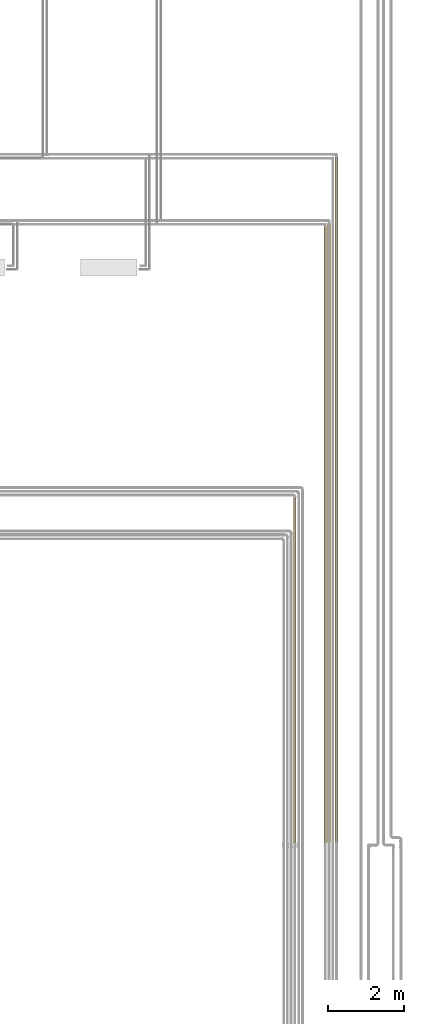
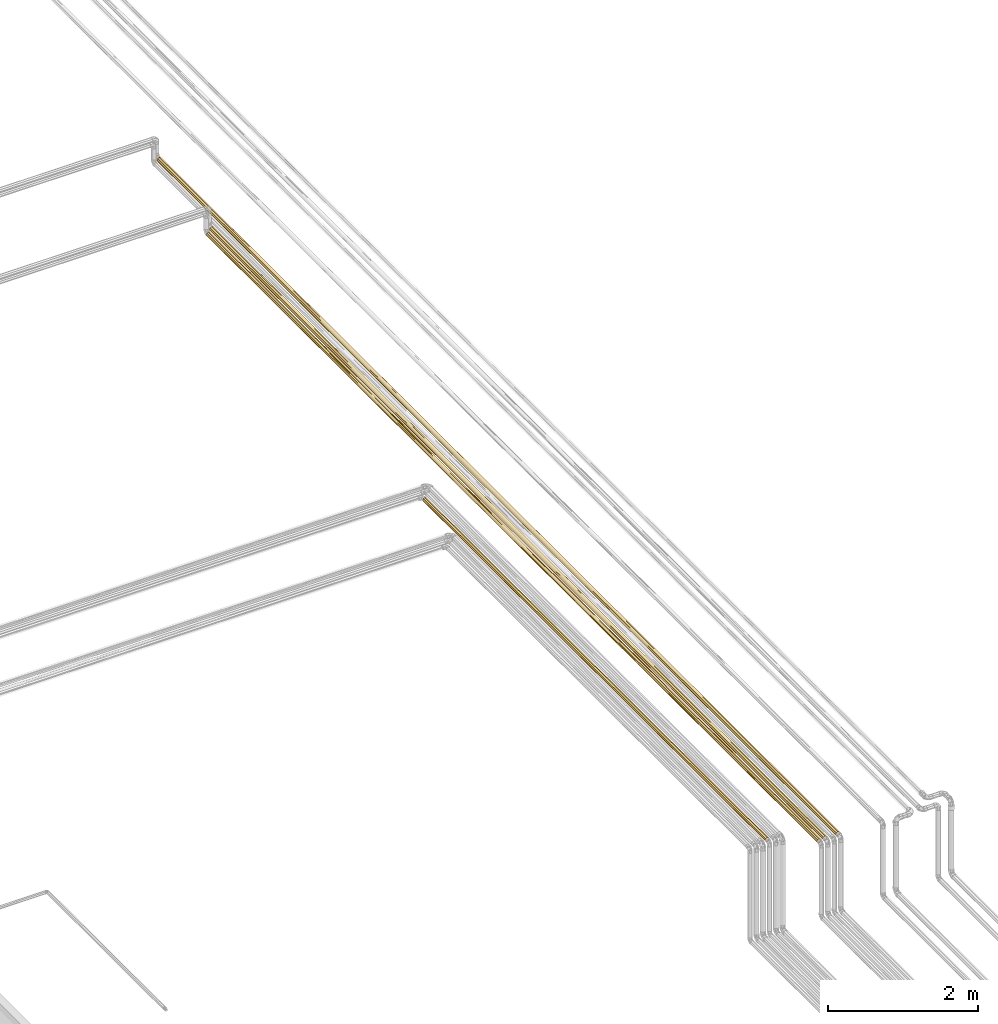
# One storey, part 137 of 652: 4 coverings.
"""IFC2X3 building model written with IfcOpenShell, lengths in millimetres."""

from ifc_helpers import new_model, entity, si_unit, converted_unit, direction, frame, origin, place, context, subcontext, project, spatial, faceted_brep, material, type_object, element, save


model = new_model("IFC2X3")

# Units and contexts
model_context = context("Model", 3, precision=0.01, world=frame((0.0, 0.0, 308426.39999999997)), true_north=direction((6.123233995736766e-17, 1.0)))
plan_context = context("Plan", 3, precision=0.01, world=frame((0.0, 0.0, 308426.39999999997)), true_north=direction((6.123233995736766e-17, 1.0)))
body_context = subcontext(model_context, "Body", "Model", "MODEL_VIEW")
ifc_project = project(units=[si_unit("LENGTHUNIT", "METRE", prefix="MILLI"), si_unit("AREAUNIT", "SQUARE_METRE"), si_unit("VOLUMEUNIT", "CUBIC_METRE"), converted_unit("PLANEANGLEUNIT", "DEGREE", entity("IfcPlaneAngleMeasure", 0.017453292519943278), si_unit("PLANEANGLEUNIT", "RADIAN"), dimensions=[0, 0, 0, 0, 0, 0, 0])], contexts=[model_context, plan_context])

# Site, building, storey
site_placement = place(None, origin())
site = spatial("IfcSite", under=ifc_project, at=site_placement, Name="Default", CompositionType="ELEMENT")
building_placement = place(site_placement, origin())
building = spatial("IfcBuilding", under=site, at=building_placement, CompositionType="ELEMENT")
storey_placement = place(building_placement, frame((0.0, 0.0, 1730.6999999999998)))
storey = spatial("IfcBuildingStorey", under=building, at=storey_placement, Name="EG_Produktion_FFB", CompositionType="ELEMENT", Elevation=1730.6999999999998)

# Coverings
ifc_material = material(Name="Dämmung - Armaflex-Schlauch")
covering_type = type_object("IfcCoveringType", Name="Rohrdämmung außen:Armaflex-Schlauch", PredefinedType="INSULATION")
covering_1_placement = place(storey_placement, frame((77841.94222776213, 51712.11260396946, 3561.9422277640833)))
element("IfcCovering", 1, at=covering_1_placement, inside=storey, type_object=covering_type, material=ifc_material, Name="Rohrdämmung außen:Armaflex-Schlauch", ObjectType="Rohrdämmung außen:Armaflex-Schlauch", PredefinedType="INSULATION", context=body_context, shape_type="Brep", body=[
    faceted_brep([(18.720611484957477, 0.0, 9.604986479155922), (25.166331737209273, 0.0, 6.935081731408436), (31.98333852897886, 0.0, 4.1113850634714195), (38.05777224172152, 0.0, 1.595272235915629), (44.50349249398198, 0.0, 4.265176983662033), (50.949212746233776, 0.0, 6.935081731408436), (57.39493299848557, 0.0, 9.604986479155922), (63.84065325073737, 0.0, 12.274891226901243), (66.51055799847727, 0.0, 18.720611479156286), (69.18046274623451, 0.0, 25.166331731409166), (72.00415941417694, 0.0, 31.983338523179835), (74.52027224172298, 0.0, 38.057772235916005), (72.00415941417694, 0.0, 44.13220594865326), (69.18046274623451, 0.0, 50.949212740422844), (66.51055799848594, 0.0, 57.3949329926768), (63.84065325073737, 0.0, 63.84065324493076), (57.39493299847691, 0.0, 66.51055799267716), (50.949212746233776, 0.0, 69.18046274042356), (44.50349249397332, 0.0, 71.85036748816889), (38.05777224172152, 0.0, 74.52027223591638), (31.98333852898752, 0.0, 72.00415940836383), (25.166331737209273, 0.0, 69.18046274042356), (18.720611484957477, 0.0, 66.51055799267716), (12.274891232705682, 0.0, 63.84065324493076), (9.604986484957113, 0.0, 57.39493299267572), (6.935081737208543, 0.0, 50.949212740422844), (4.265176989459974, 0.0, 44.50349248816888), (1.5952722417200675, 0.0, 38.057772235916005), (4.265176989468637, 0.0, 31.61205198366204), (6.935081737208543, 0.0, 25.166331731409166), (9.604986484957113, 0.0, 18.720611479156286), (12.274891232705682, 0.0, 12.274891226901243), (1.5952722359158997, 18128.803146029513, 38.057772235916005), (4.111385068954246, 18128.803146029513, 44.13220594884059), (6.6274978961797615, 18128.803146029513, 50.20663966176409), (9.451194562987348, 18128.803146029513, 57.02364645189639), (12.274891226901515, 18128.803146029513, 63.84065324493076), (18.72061148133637, 18128.80314602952, 66.51055799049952), (25.166331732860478, 18128.80314602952, 69.18046273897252), (31.612051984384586, 18128.80314602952, 71.85036748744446), (38.057772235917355, 18128.80314602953, 74.52027223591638), (44.13220594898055, 18128.80314602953, 72.00415940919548), (50.20663966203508, 18128.80314602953, 69.48804658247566), (57.02364645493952, 18128.80314602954, 66.66434991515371), (63.8406532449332, 18128.80314602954, 63.84065324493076), (66.51055799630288, 18128.80314602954, 57.39493299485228), (69.18046274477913, 18128.80314602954, 50.949212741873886), (71.85036749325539, 18128.80314602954, 44.5034924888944), (74.52027223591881, 18128.80314602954, 38.057772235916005), (71.85036749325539, 18128.80314602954, 31.61205198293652), (69.18046274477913, 18128.80314602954, 25.166331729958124), (66.51055799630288, 18128.80314602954, 18.720611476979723), (63.8406532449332, 18128.80314602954, 12.274891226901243), (57.02364645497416, 18128.80314602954, 9.451194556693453), (50.20663966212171, 18128.80314602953, 6.627497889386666), (44.13220594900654, 18128.80314602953, 4.111385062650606), (38.057772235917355, 18128.80314602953, 1.595272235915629), (31.612051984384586, 18128.80314602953, 4.265176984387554), (25.166331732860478, 18128.80314602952, 6.935081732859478), (18.720611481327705, 18128.803146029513, 9.604986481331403), (12.274891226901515, 18128.803146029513, 12.274891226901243), (9.451194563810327, 18128.803146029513, 19.091898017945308), (6.627497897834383, 18128.803146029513, 25.908904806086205), (4.111385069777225, 18128.803146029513, 31.983338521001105), (2.8250983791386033, 8631.760833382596, 28.667745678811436), (7.7403115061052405, 9064.401572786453, 17.80029260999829), (1.5952722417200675, 11381.80366286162, 38.057772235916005), (12.27489123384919, 7359.576550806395, 12.27489122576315), (17.80029261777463, 9064.401574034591, 7.7403114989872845), (28.66774568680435, 9497.042315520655, 2.825098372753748), (38.05777223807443, 11381.77848042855, 1.595272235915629), (38.05777223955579, 6747.016812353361, 1.595272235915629), (63.840653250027, 7359.576551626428, 12.274891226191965), (58.31525186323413, 9064.401571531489, 7.7403114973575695), (47.447798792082, 8631.760830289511, 2.8250983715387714), (68.37523297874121, 9064.401574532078, 17.80029261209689), (73.29044610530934, 9497.042315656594, 28.667745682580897), (74.52027224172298, 6746.999475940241, 38.057772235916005), (73.2904461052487, 9497.042315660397, 47.4477987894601), (47.4477987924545, 8631.76083065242, 73.29044610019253), (63.840653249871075, 7359.576551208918, 63.84065324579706), (68.37523297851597, 9064.40157468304, 58.31525186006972), (58.31525186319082, 9064.401571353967, 68.37523297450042), (38.05777223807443, 11381.813022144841, 74.52027223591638), (38.05777223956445, 6747.055834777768, 74.52027223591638), (28.667745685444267, 9497.042315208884, 73.29044609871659), (2.8250983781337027, 8631.760830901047, 47.44779878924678), (12.274891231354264, 7359.576550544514, 63.84065324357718), (17.800292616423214, 9064.401574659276, 68.3752329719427), (7.740311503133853, 9064.401571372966, 58.315251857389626)], [[[0, 1, 2, 3, 4, 5, 6, 7, 8, 9, 10, 11, 12, 13, 14, 15, 16, 17, 18, 19, 20, 21, 22, 23, 24, 25, 26, 27, 28, 29, 30, 31]], [[32, 33, 34, 35, 36, 37, 38, 39, 40, 41, 42, 43, 44, 45, 46, 47, 48, 49, 50, 51, 52, 53, 54, 55, 56, 57, 58, 59, 60, 61, 62, 63]], [[64, 62, 65]], [[27, 66, 64]], [[67, 30, 65]], [[65, 62, 61, 60]], [[68, 1, 0]], [[1, 69, 2]], [[69, 56, 70, 71]], [[68, 60, 59, 58]], [[66, 32, 63]], [[67, 31, 30]], [[64, 66, 63]], [[62, 64, 63]], [[64, 29, 28, 27]], [[65, 29, 64]], [[67, 60, 68]], [[71, 3, 2]], [[31, 67, 0]], [[68, 69, 1]], [[71, 2, 69]], [[68, 58, 69]], [[69, 58, 57, 56]], [[60, 67, 65]], [[29, 65, 30]], [[0, 67, 68]], [[72, 6, 73]], [[74, 54, 73]], [[70, 55, 74]], [[54, 74, 55]], [[75, 52, 51, 50]], [[75, 9, 8]], [[76, 9, 75]], [[76, 48, 77]], [[74, 3, 71, 70]], [[73, 54, 53]], [[70, 56, 55]], [[72, 7, 6]], [[74, 5, 4, 3]], [[73, 5, 74]], [[72, 52, 75]], [[77, 11, 10]], [[7, 72, 8]], [[76, 77, 10]], [[76, 75, 50]], [[9, 76, 10]], [[76, 50, 49, 48]], [[52, 72, 73]], [[5, 73, 6]], [[53, 52, 73]], [[8, 72, 75]], [[78, 13, 12]], [[79, 19, 18, 17]], [[14, 80, 15]], [[12, 11, 77]], [[81, 46, 45, 44]], [[82, 17, 16]], [[42, 41, 79]], [[42, 79, 82]], [[48, 78, 77]], [[79, 41, 83]], [[78, 48, 47, 46]], [[41, 40, 83]], [[80, 16, 15]], [[79, 17, 82]], [[80, 44, 82]], [[80, 14, 81]], [[13, 78, 81]], [[78, 12, 77]], [[78, 46, 81]], [[82, 16, 80]], [[82, 44, 43, 42]], [[79, 83, 84, 19]], [[13, 81, 14]], [[44, 80, 81]], [[85, 21, 20]], [[86, 27, 26, 25]], [[36, 87, 88]], [[88, 38, 37]], [[89, 25, 24]], [[34, 33, 86]], [[34, 86, 89]], [[85, 84, 83, 40]], [[86, 33, 66]], [[85, 40, 39, 38]], [[33, 32, 66]], [[23, 87, 24]], [[86, 25, 89]], [[87, 36, 89]], [[87, 22, 88]], [[21, 85, 88]], [[85, 20, 84]], [[20, 19, 84]], [[87, 23, 22]], [[85, 38, 88]], [[89, 36, 35, 34]], [[27, 86, 66]], [[37, 36, 88]], [[21, 88, 22]], [[24, 87, 89]]]),
])
covering_2_placement = place(storey_placement, frame((77641.94222776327, 51712.11260396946, 3561.9422277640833)))
element("IfcCovering", 2, at=covering_2_placement, inside=storey, type_object=covering_type, material=ifc_material, Name="Rohrdämmung außen:Armaflex-Schlauch", ObjectType="Rohrdämmung außen:Armaflex-Schlauch", PredefinedType="INSULATION", context=body_context, shape_type="Brep", body=[
    faceted_brep([(18.72061148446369, 0.0, 9.604986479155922), (25.166331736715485, 0.0, 6.935081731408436), (31.98333852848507, 0.0, 4.1113850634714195), (38.05777224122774, 0.0, 1.595272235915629), (44.503492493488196, 0.0, 4.265176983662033), (50.94921274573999, 0.0, 6.935081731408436), (57.39493299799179, 0.0, 9.604986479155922), (63.84065325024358, 0.0, 12.274891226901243), (66.51055799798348, 0.0, 18.720611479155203), (69.18046274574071, 0.0, 25.166331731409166), (72.00415941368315, 0.0, 31.983338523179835), (74.5202722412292, 0.0, 38.057772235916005), (72.00415941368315, 0.0, 44.13220594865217), (69.18046274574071, 0.0, 50.949212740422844), (66.51055799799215, 0.0, 57.39493299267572), (63.84065325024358, 0.0, 63.84065324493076), (57.39493299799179, 0.0, 66.51055799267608), (50.94921274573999, 0.0, 69.18046274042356), (44.503492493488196, 0.0, 71.85036748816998), (38.05777224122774, 0.0, 74.52027223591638), (31.983338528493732, 0.0, 72.00415940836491), (25.166331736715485, 0.0, 69.18046274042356), (18.72061148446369, 0.0, 66.51055799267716), (12.274891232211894, 0.0, 63.84065324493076), (9.604986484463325, 0.0, 57.3949329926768), (6.935081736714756, 0.0, 50.949212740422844), (4.26517698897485, 0.0, 44.50349248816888), (1.59527224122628, 0.0, 38.057772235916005), (4.26517698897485, 0.0, 31.61205198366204), (6.935081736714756, 0.0, 25.166331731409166), (9.604986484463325, 0.0, 18.720611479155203), (12.274891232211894, 0.0, 12.274891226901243), (1.5952722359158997, 16378.803146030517, 38.057772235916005), (4.111385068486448, 16378.803146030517, 44.13220594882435), (6.627497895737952, 16378.803146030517, 50.206639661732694), (9.451194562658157, 16378.803146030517, 57.02364645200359), (12.274891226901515, 16378.803146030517, 63.84065324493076), (18.720611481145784, 16378.803146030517, 66.51055799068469), (25.166331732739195, 16378.803146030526, 69.18046273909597), (31.612051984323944, 16378.803146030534, 71.85036748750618), (38.057772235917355, 16378.803146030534, 74.52027223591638), (44.132205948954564, 16378.803146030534, 72.0041594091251), (50.206639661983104, 16378.803146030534, 69.48804658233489), (57.02364645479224, 16378.803146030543, 66.66434991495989), (63.8406532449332, 16378.803146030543, 63.84065324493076), (66.51055799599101, 16378.803146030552, 57.39493299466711), (69.18046274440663, 16378.803146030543, 50.949212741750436), (71.85036749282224, 16378.803146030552, 44.50349248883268), (74.52027223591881, 16378.803146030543, 38.057772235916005), (71.85036749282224, 16378.803146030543, 31.61205198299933), (69.18046274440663, 16378.803146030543, 25.16633173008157), (66.51055799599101, 16378.803146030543, 18.720611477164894), (63.8406532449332, 16378.803146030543, 12.274891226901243), (57.02364645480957, 16378.803146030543, 9.451194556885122), (50.20663966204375, 16378.803146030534, 6.627497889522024), (44.13220594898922, 16378.803146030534, 4.111385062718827), (38.057772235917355, 16378.803146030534, 1.595272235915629), (31.612051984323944, 16378.803146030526, 4.26517698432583), (25.166331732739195, 16378.803146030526, 6.935081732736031), (18.720611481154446, 16378.803146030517, 9.604986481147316), (12.274891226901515, 16378.803146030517, 12.274891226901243), (9.451194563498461, 16378.803146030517, 19.091898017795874), (6.627497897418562, 16378.803146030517, 25.908904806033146), (4.111385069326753, 16378.803146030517, 31.983338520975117), (2.6834042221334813, 7448.5247088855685, 29.216505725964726), (7.5131407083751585, 8549.928949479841, 18.144475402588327), (1.59527224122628, 9631.803662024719, 38.057772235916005), (12.113244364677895, 7424.651519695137, 12.437557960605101), (17.800292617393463, 8189.401574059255, 7.7403114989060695), (29.216505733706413, 8930.278439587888, 2.683404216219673), (38.05777223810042, 9631.805277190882, 1.595272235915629), (38.05777223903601, 6747.00161702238, 1.595272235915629), (63.67798651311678, 7424.651522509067, 12.113244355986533), (57.97106906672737, 8549.928951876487, 7.513140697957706), (46.89903874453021, 7448.524706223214, 2.6834042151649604), (68.37523297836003, 8189.401574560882, 17.800292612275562), (73.4321402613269, 8930.278439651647, 29.216505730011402), (74.52027224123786, 6746.9994759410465, 38.057772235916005), (73.43214026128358, 8930.278439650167, 46.89903874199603), (63.84065324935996, 7224.168684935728, 63.84065324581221), (68.37523297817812, 8189.401574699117, 58.31525185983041), (46.899038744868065, 7448.524706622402, 73.43214025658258), (38.05777223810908, 9631.792852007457, 74.52027223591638), (38.057772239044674, 6747.023238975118, 74.52027223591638), (58.31525186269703, 8189.401571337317, 68.37523297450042), (29.216505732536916, 8930.278439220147, 73.43214025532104), (12.274891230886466, 7224.168684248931, 63.840653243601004), (17.800292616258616, 8189.401574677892, 68.3752329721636), (2.6834042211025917, 7448.524706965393, 46.899038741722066), (7.740311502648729, 8189.401571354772, 58.31525185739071)], [[[0, 1, 2, 3, 4, 5, 6, 7, 8, 9, 10, 11, 12, 13, 14, 15, 16, 17, 18, 19, 20, 21, 22, 23, 24, 25, 26, 27, 28, 29, 30, 31]], [[32, 33, 34, 35, 36, 37, 38, 39, 40, 41, 42, 43, 44, 45, 46, 47, 48, 49, 50, 51, 52, 53, 54, 55, 56, 57, 58, 59, 60, 61, 62, 63]], [[64, 62, 65]], [[27, 66, 64]], [[67, 30, 65]], [[65, 62, 61, 60]], [[68, 1, 0]], [[1, 69, 2]], [[69, 56, 70, 71]], [[68, 60, 59, 58]], [[66, 32, 63]], [[64, 66, 63]], [[62, 64, 63]], [[64, 29, 28, 27]], [[60, 68, 67]], [[64, 65, 29]], [[71, 3, 2]], [[68, 0, 67]], [[68, 69, 1]], [[71, 2, 69]], [[68, 58, 69]], [[69, 58, 57, 56]], [[30, 67, 31]], [[30, 29, 65]], [[31, 67, 0]], [[60, 67, 65]], [[72, 6, 73]], [[74, 54, 73]], [[70, 55, 74]], [[54, 74, 55]], [[75, 52, 51, 50]], [[75, 9, 8]], [[76, 9, 75]], [[76, 48, 77]], [[74, 3, 71, 70]], [[73, 54, 53]], [[70, 56, 55]], [[74, 5, 4, 3]], [[52, 75, 72]], [[74, 73, 5]], [[77, 11, 10]], [[75, 8, 72]], [[76, 77, 10]], [[76, 75, 50]], [[9, 76, 10]], [[76, 50, 49, 48]], [[6, 72, 7]], [[52, 73, 53]], [[6, 5, 73]], [[7, 72, 8]], [[52, 72, 73]], [[78, 13, 12]], [[79, 14, 80]], [[81, 82, 83, 19]], [[80, 46, 45, 44]], [[84, 17, 16]], [[42, 41, 81]], [[42, 81, 84]], [[14, 79, 15]], [[12, 11, 77]], [[79, 44, 84]], [[78, 48, 47, 46]], [[13, 78, 80]], [[78, 12, 77]], [[78, 46, 80]], [[81, 41, 82]], [[81, 19, 18, 17]], [[41, 40, 82]], [[15, 79, 16]], [[81, 17, 84]], [[84, 16, 79]], [[84, 44, 43, 42]], [[48, 78, 77]], [[13, 80, 14]], [[44, 79, 80]], [[85, 21, 20]], [[86, 22, 87]], [[27, 88, 66]], [[87, 38, 37]], [[89, 25, 24]], [[34, 33, 88]], [[34, 88, 89]], [[36, 86, 87]], [[86, 36, 89]], [[85, 40, 39, 38]], [[21, 85, 87]], [[85, 20, 83]], [[20, 19, 83]], [[86, 23, 22]], [[85, 38, 87]], [[88, 33, 66]], [[88, 27, 26, 25]], [[33, 32, 66]], [[86, 24, 23]], [[88, 25, 89]], [[89, 36, 35, 34]], [[85, 83, 82, 40]], [[36, 87, 37]], [[21, 87, 22]], [[24, 86, 89]]]),
])
covering_3_placement = place(storey_placement, frame((77545.11722776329, 51698.07910396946, 3565.1172277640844)))
element("IfcCovering", 3, at=covering_3_placement, inside=storey, type_object=covering_type, material=ifc_material, Name="Rohrdämmung außen:Armaflex-Schlauch", ObjectType="Rohrdämmung außen:Armaflex-Schlauch", PredefinedType="INSULATION", context=body_context, shape_type="Brep", body=[
    faceted_brep([(17.229409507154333, 0.0, 8.90753450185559), (23.11386375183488, 0.0, 6.470113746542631), (29.078828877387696, 0.0, 3.9993442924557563), (34.882772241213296, 0.0, 1.595272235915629), (40.767226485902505, 0.0, 4.032692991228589), (46.651680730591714, 0.0, 6.470113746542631), (52.53613497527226, 0.0, 8.90753450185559), (58.42058921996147, 0.0, 11.34495525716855), (60.85800997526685, 0.0, 17.229409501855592), (63.2954307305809, 0.0, 23.113863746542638), (65.76620018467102, 0.0, 29.07882887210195), (68.17027224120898, 0.0, 34.88277223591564), (65.76620018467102, 0.0, 40.68671559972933), (63.2954307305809, 0.0, 46.65168072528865), (60.85800997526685, 0.0, 52.536134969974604), (58.42058921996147, 0.0, 58.42058921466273), (52.53613497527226, 0.0, 60.85800996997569), (46.651680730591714, 0.0, 63.295430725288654), (40.767226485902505, 0.0, 65.73285148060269), (34.882772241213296, 0.0, 68.17027223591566), (29.078828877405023, 0.0, 65.76620017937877), (23.11386375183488, 0.0, 63.295430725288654), (17.229409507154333, 0.0, 60.85800996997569), (11.344955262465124, 0.0, 58.42058921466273), (8.907534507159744, 0.0, 52.53613496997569), (6.470113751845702, 0.0, 46.65168072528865), (4.0326929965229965, 0.0, 40.76722648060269), (1.5952722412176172, 0.0, 34.88277223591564), (4.03269299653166, 0.0, 28.9983179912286), (6.470113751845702, 0.0, 23.113863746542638), (8.907534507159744, 0.0, 17.229409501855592), (11.344955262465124, 0.0, 11.34495525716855), (1.5952722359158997, 16306.87014603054, 34.88277223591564), (3.999344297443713, 16306.87014603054, 40.686715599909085), (6.403416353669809, 16306.87014603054, 46.49065896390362), (8.874185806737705, 16306.87014603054, 52.455624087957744), (11.344955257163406, 16306.87014603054, 58.42058921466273), (17.22940950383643, 16306.87014603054, 60.85800996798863), (23.113863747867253, 16306.87014603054, 63.29543072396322), (28.99831799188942, 16306.87014603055, 65.73285147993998), (34.88277223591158, 16306.87014603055, 68.17027223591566), (40.68671560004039, 16306.87014603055, 65.7662001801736), (46.49065896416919, 16306.870146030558, 63.36212812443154), (52.45562409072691, 16306.870146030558, 60.89135867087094), (58.420589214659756, 16306.870146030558, 58.42058921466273), (60.8580099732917, 16306.870146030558, 52.53613497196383), (63.295430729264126, 16306.870146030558, 46.651680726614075), (65.7328514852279, 16306.870146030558, 40.767226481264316), (68.17027223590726, 16306.870146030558, 34.88277223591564), (65.7328514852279, 16306.870146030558, 28.998317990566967), (63.295430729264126, 16306.870146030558, 23.11386374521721), (60.8580099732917, 16306.870146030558, 17.22940949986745), (58.420589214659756, 16306.870146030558, 11.34495525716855), (52.45562409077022, 16306.870146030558, 8.874185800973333), (46.49065896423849, 16306.870146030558, 6.403416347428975), (40.68671560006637, 16306.87014603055, 3.9993442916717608), (34.88277223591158, 16306.87014603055, 1.595272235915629), (28.99831799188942, 16306.87014603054, 4.032692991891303), (23.113863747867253, 16306.87014603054, 6.47011374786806), (17.22940950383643, 16306.87014603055, 8.907534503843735), (11.344955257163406, 16306.87014603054, 11.34495525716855), (8.874185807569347, 16306.87014603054, 17.30992038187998), (6.40341635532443, 16306.87014603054, 23.27488550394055), (3.999344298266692, 16306.87014603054, 29.07882886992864), (2.7044786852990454, 7689.4914490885, 26.361323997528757), (7.205227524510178, 8153.43507284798, 16.38922810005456), (1.5952722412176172, 9860.30990178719, 34.88277223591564), (11.344955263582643, 6696.417330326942, 11.344955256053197), (16.389228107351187, 8153.435073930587, 7.205227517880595), (26.36132400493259, 8617.378699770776, 2.704478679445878), (34.88277223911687, 6446.553117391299, 1.595272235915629), (34.88277223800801, 9860.337181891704, 1.595272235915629), (58.42058921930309, 6696.417331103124, 11.344955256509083), (53.376316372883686, 8153.435071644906, 7.20522751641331), (43.40422047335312, 7689.491446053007, 2.704478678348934), (62.56031695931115, 8153.435074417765, 16.389228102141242), (67.06106579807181, 8617.378699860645, 26.36132400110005), (68.17027224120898, 6446.560236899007, 34.88277223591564), (67.06106579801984, 8617.37869986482, 43.404220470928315), (34.88277223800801, 9860.298287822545, 68.17027223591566), (43.40422047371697, 7689.491446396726, 67.06106579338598), (58.42058921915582, 6696.4173306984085, 58.42058921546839), (62.56031695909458, 8153.435074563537, 53.37631637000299), (53.37631637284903, 8153.435071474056, 62.560316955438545), (34.882772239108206, 6446.53118815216, 68.17027223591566), (26.361324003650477, 8617.378699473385, 67.06106579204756), (2.7044786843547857, 7689.491446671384, 43.40422047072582), (11.344955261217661, 6696.417330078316, 58.4205892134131), (16.389228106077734, 8153.435074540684, 62.56031695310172), (7.205227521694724, 8153.435071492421, 53.37631636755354)], [[[0, 1, 2, 3, 4, 5, 6, 7, 8, 9, 10, 11, 12, 13, 14, 15, 16, 17, 18, 19, 20, 21, 22, 23, 24, 25, 26, 27, 28, 29, 30, 31]], [[32, 33, 34, 35, 36, 37, 38, 39, 40, 41, 42, 43, 44, 45, 46, 47, 48, 49, 50, 51, 52, 53, 54, 55, 56, 57, 58, 59, 60, 61, 62, 63]], [[64, 62, 65]], [[66, 64, 28]], [[67, 30, 65]], [[65, 62, 61, 60]], [[68, 1, 0]], [[1, 69, 2]], [[57, 70, 69]], [[68, 60, 59]], [[66, 32, 63]], [[28, 27, 66]], [[67, 31, 30]], [[64, 66, 63]], [[62, 64, 63]], [[65, 29, 64]], [[67, 60, 68]], [[70, 3, 2]], [[57, 56, 71, 70]], [[31, 67, 0]], [[68, 69, 1]], [[70, 2, 69]], [[68, 58, 69]], [[64, 29, 28]], [[60, 67, 65]], [[30, 29, 65]], [[59, 58, 68]], [[0, 67, 68]], [[69, 58, 57]], [[72, 6, 73]], [[74, 54, 73]], [[71, 55, 74]], [[54, 74, 55]], [[75, 52, 51, 50]], [[75, 9, 8]], [[76, 9, 75]], [[49, 77, 76]], [[74, 4, 71]], [[73, 54, 53]], [[71, 56, 55]], [[4, 3, 70, 71]], [[72, 7, 6]], [[73, 5, 74]], [[72, 52, 75]], [[77, 11, 10]], [[49, 48, 77]], [[7, 72, 8]], [[76, 77, 10]], [[76, 75, 50]], [[9, 76, 10]], [[74, 5, 4]], [[52, 72, 73]], [[6, 5, 73]], [[53, 52, 73]], [[8, 72, 75]], [[76, 50, 49]], [[78, 13, 12]], [[79, 18, 80]], [[14, 81, 15]], [[47, 77, 48]], [[12, 11, 77]], [[82, 46, 45, 44]], [[83, 17, 16]], [[42, 41, 80]], [[42, 80, 83]], [[80, 41, 79]], [[77, 47, 78]], [[41, 40, 79]], [[18, 79, 84, 19]], [[81, 16, 15]], [[80, 17, 83]], [[81, 44, 83]], [[81, 14, 82]], [[13, 78, 82]], [[78, 12, 77]], [[78, 46, 82]], [[83, 16, 81]], [[83, 44, 43, 42]], [[18, 17, 80]], [[13, 82, 14]], [[47, 46, 78]], [[44, 81, 82]], [[85, 21, 20]], [[66, 26, 86]], [[36, 87, 88]], [[88, 38, 37]], [[89, 25, 24]], [[34, 33, 86]], [[34, 86, 89]], [[39, 84, 79, 40]], [[20, 19, 84]], [[87, 23, 22]], [[86, 33, 66]], [[84, 39, 85]], [[33, 32, 66]], [[26, 66, 27]], [[23, 87, 24]], [[86, 25, 89]], [[87, 36, 89]], [[87, 22, 88]], [[21, 85, 88]], [[85, 20, 84]], [[85, 38, 88]], [[89, 36, 35, 34]], [[26, 25, 86]], [[36, 88, 37]], [[21, 88, 22]], [[39, 38, 85]], [[24, 87, 89]]]),
])
covering_4_placement = place(storey_placement, frame((76745.11722776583, 51698.07910396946, 3865.1172277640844)))
element("IfcCovering", 4, at=covering_4_placement, inside=storey, type_object=covering_type, material=ifc_material, Name="Rohrdämmung außen:Armaflex-Schlauch", ObjectType="Rohrdämmung außen:Armaflex-Schlauch", PredefinedType="INSULATION", context=body_context, shape_type="Brep", body=[
    faceted_brep([(17.229409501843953, 0.0, 8.90753450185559), (23.113863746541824, 0.0, 6.470113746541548), (28.998317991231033, 0.0, 4.032692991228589), (34.88277223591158, 0.0, 1.595272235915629), (42.25971918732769, 0.0, 4.650903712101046), (46.65168072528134, 0.0, 6.470113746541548), (52.53613496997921, 0.0, 8.90753450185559), (58.420589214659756, 0.0, 11.34495525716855), (60.8580099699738, 0.0, 17.229409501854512), (63.295430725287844, 0.0, 23.113863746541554), (65.73285148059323, 0.0, 28.9983179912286), (68.17027223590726, 0.0, 34.88277223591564), (65.11464075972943, 0.0, 42.259719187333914), (63.295430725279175, 0.0, 46.65168072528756), (60.85800996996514, 0.0, 52.536134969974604), (58.420589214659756, 0.0, 58.42058921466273), (52.53613496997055, 0.0, 60.85800996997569), (46.65168072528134, 0.0, 63.29543072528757), (40.76722648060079, 0.0, 65.73285148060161), (34.88277223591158, 0.0, 68.17027223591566), (27.505825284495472, 0.0, 65.11464075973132), (23.113863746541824, 0.0, 63.295430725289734), (17.22940950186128, 0.0, 60.85800996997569), (11.344955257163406, 0.0, 58.42058921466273), (8.907534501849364, 0.0, 52.53613496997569), (6.470113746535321, 0.0, 46.65168072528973), (4.032692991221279, 0.0, 40.76722648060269), (1.5952722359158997, 0.0, 34.88277223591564), (4.032692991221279, 0.0, 28.9983179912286), (6.470113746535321, 0.0, 23.113863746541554), (8.907534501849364, 0.0, 17.229409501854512), (11.344955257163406, 0.0, 11.34495525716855), (1.5952722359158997, 9141.870146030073, 34.88277223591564), (4.6509037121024, 9141.870146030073, 42.25971918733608), (7.706535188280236, 9141.870146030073, 49.63666613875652), (11.344955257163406, 9141.870146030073, 58.42058921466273), (17.229409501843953, 9141.870146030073, 60.85800996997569), (23.113863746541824, 9141.870146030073, 63.295430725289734), (28.998317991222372, 9141.870146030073, 65.73285148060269), (34.88277223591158, 9141.870146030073, 68.17027223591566), (42.25971918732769, 9141.870146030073, 65.11464075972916), (49.63666613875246, 9141.870146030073, 62.05900928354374), (58.420589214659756, 9141.870146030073, 58.42058921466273), (60.8580099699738, 9141.870146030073, 52.536134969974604), (63.295430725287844, 9141.870146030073, 46.65168072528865), (65.73285148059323, 9141.870146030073, 40.76722648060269), (68.17027223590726, 9141.870146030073, 34.88277223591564), (65.11464075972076, 9141.870146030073, 27.505825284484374), (62.0590092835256, 9141.870146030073, 20.12887833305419), (58.420589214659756, 9141.870146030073, 11.34495525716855), (52.53613496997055, 9141.870146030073, 8.90753450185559), (46.65168072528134, 9141.870146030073, 6.470113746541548), (40.76722648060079, 9141.870146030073, 4.032692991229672), (34.88277223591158, 9141.870146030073, 1.595272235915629), (27.505825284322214, 9141.870146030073, 4.650903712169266), (20.128878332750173, 9141.870146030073, 7.7065351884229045), (11.344955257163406, 9141.870146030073, 11.34495525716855), (8.907534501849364, 9141.870146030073, 17.229409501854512), (6.470113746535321, 9141.870146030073, 23.113863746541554), (4.032692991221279, 9141.870146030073, 28.9983179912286)], [[[0, 1, 2, 3, 4, 5, 6, 7, 8, 9, 10, 11, 12, 13, 14, 15, 16, 17, 18, 19, 20, 21, 22, 23, 24, 25, 26, 27, 28, 29, 30, 31]], [[32, 33, 34, 35, 36, 37, 38, 39, 40, 41, 42, 43, 44, 45, 46, 47, 48, 49, 50, 51, 52, 53, 54, 55, 56, 57, 58, 59]], [[58, 57, 56, 31, 30, 29, 28, 27, 32, 59]], [[56, 55, 54, 53, 3, 2, 1, 0, 31]], [[46, 11, 10, 9, 8, 7, 49, 48, 47]], [[6, 5, 4, 3, 53, 52, 51, 50, 49, 7]], [[39, 19, 18, 17, 16, 15, 42, 41, 40]], [[14, 13, 12, 11, 46, 45, 44, 43, 42, 15]], [[32, 27, 26, 25, 24, 23, 35, 34, 33]], [[22, 21, 20, 19, 39, 38, 37, 36, 35, 23]]]),
])

save(model, "model.ifc")
